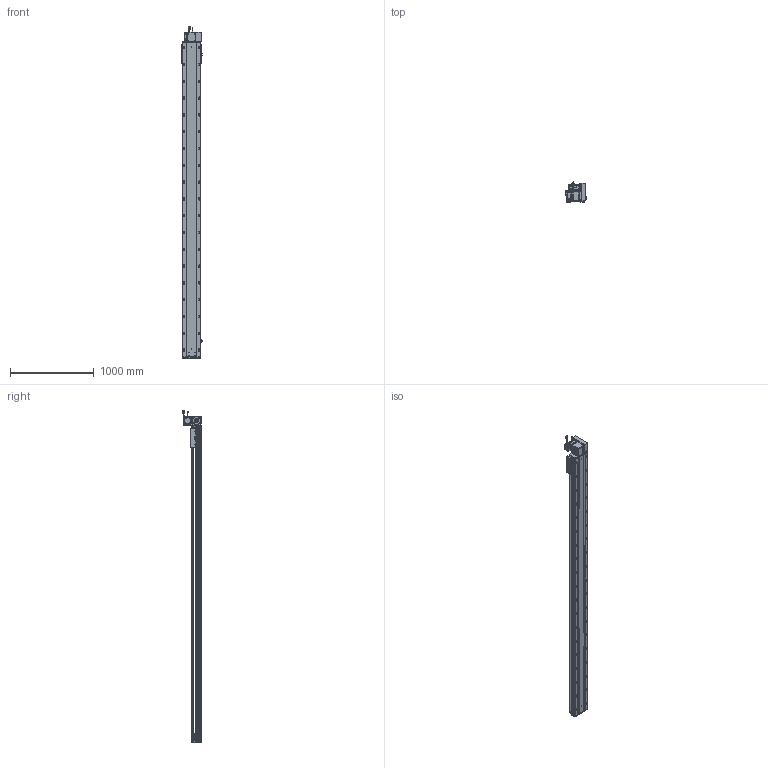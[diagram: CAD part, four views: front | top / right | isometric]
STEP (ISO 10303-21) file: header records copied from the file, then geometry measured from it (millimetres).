
FILE_DESCRIPTION (( 'STEP AP203' ), '1' );
FILE_NAME ('RY220-T-300-UR.SLDASM_3400.step', '2022-07-25T08:46:45', ( '' ), ( '' ), 'SwSTEP 2.0', 'SolidWorks 2016', '' );
FILE_SCHEMA (( 'CONFIG_CONTROL_DESIGN' ));
Length unit declared in the file: millimetre
Products named in the file (14): RY220圉猾敕々湍臏賑輸; RY220-T-300-奻裔啣_3400; 110A-T-肮祭謫釱傷裔; RY220-同步轮副支撑座6304×2; RY220-俋离672覜茼んえ; RY220-T-蛌殏萇儂假蚾啣(750W); RY220-T-300-UR.SLDASM_3400; 覜茼ん672; RY220翋肮祭謫釱; RY220翋肮祭謫裔啣; RY220-T菁釱-300_3400; RY220-T-湍謫欶(鍼踢); 滅袉蝶18-15; 怢湛750W_ECMA-CX0807ES
Assembly tree (18 placements, depth 2):
  RY220-T-300-UR.SLDASM_3400
    RY220-T菁釱-300_3400
    RY220翋肮祭謫釱
    覜茼ん672  x3
    RY220圉猾敕々湍臏賑輸
    RY220-T-300-奻裔啣_3400
    RY220-俋离672覜茼んえ
    滅袉蝶18-15  x3
    RY220翋肮祭謫裔啣  x2
    110A-T-肮祭謫釱傷裔
    怢湛750W_ECMA-CX0807ES
    RY220-T-湍謫欶(鍼踢)
    RY220-T-蛌殏萇儂假蚾啣(750W)
    RY220-同步轮副支撑座6304×2
Bounding box: 238.7 x 231.74 x 3953.27 mm (x, y, z)
Volume: 27793636.3 mm3; surface area: 8642703.3 mm2
Topology: 19 solids, 19 shells, 3112 faces, 8611 edges, 5374 vertices
Faces by surface type: cylinder 1552, plane 1069, cone 409, bspline 56, sphere 16, torus 10
Entity records: 103763 total; most frequent: CARTESIAN_POINT 29165, ORIENTED_EDGE 15386, DIRECTION 14940, EDGE_CURVE 7693, AXIS2_PLACEMENT_3D 5418, VERTEX_POINT 4998, VECTOR 4104, LINE 4104
